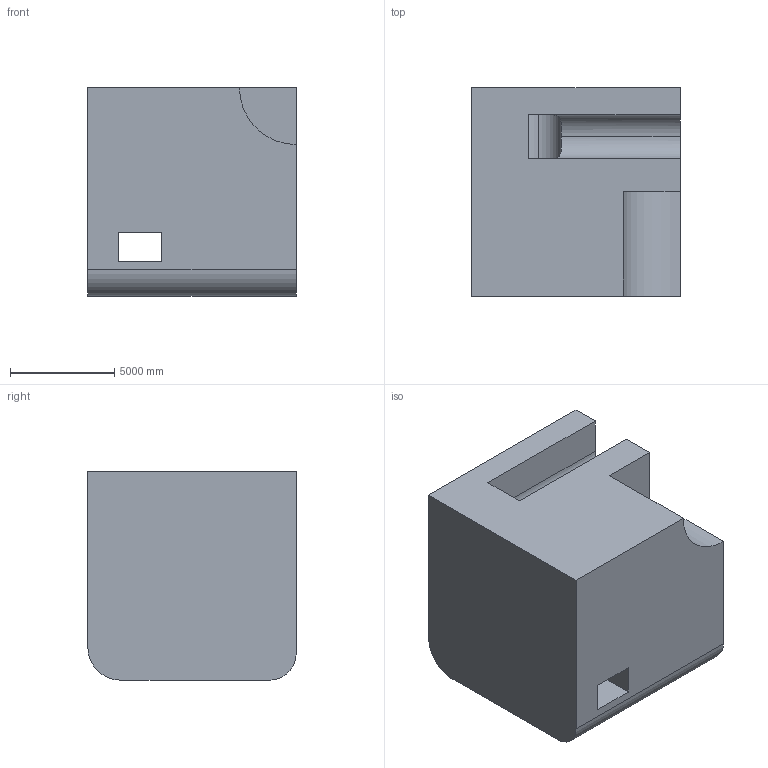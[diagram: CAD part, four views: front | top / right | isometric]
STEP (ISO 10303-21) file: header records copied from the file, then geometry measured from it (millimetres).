
FILE_DESCRIPTION (( 'STEP AP203' ), '1' );
FILE_NAME ('674.STEP', '2022-07-29T12:26:56', ( 'user' ), ( '' ), 'SwSTEP 2.0', 'SolidWorks 2021', '' );
FILE_SCHEMA (( 'CONFIG_CONTROL_DESIGN' ));
Length unit declared in the file: centimetre
Products named in the file (1): 674
Bounding box: 10000 x 10000 x 10000 mm (x, y, z)
Volume: 870141664759.3 mm3; surface area: 698415029.8 mm2
Topology: 1 solids, 1 shells, 26 faces, 75 edges, 50 vertices
Faces by surface type: plane 17, cylinder 9
Entity records: 1109 total; most frequent: CARTESIAN_POINT 321, ORIENTED_EDGE 150, DIRECTION 147, EDGE_CURVE 75, LINE 53, VECTOR 53, VERTEX_POINT 50, AXIS2_PLACEMENT_3D 47
